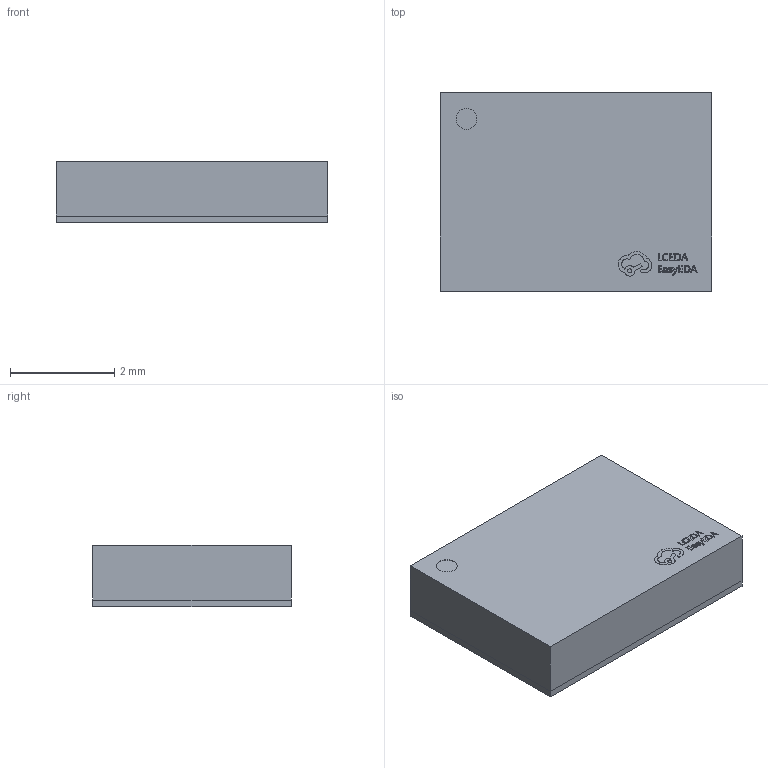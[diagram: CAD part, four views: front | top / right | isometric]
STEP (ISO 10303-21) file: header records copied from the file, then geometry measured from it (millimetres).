
FILE_DESCRIPTION (( 'STEP AP214' ), '1' );
FILE_NAME ('LGA-28_L5.2-W3.8-H1.2-P0.50-BL.step', '2022-07-04T13:29:11', ( '' ), ( '' ), 'SwSTEP 2.0', 'SolidWorks 2020', '' );
FILE_SCHEMA (( 'AUTOMOTIVE_DESIGN' ));
Length unit declared in the file: millimetre
Products named in the file (1): LGA-28_L5.2-W3.8-H1.2-P0.50-BL
Bounding box: 5.2 x 3.8 x 1.18 mm (x, y, z)
Volume: 23.3 mm3; surface area: 100.3 mm2
Topology: 2 solids, 2 shells, 327 faces, 917 edges, 650 vertices
Faces by surface type: plane 213, bspline 112, cylinder 2
Entity records: 14700 total; most frequent: CARTESIAN_POINT 3999, ORIENTED_EDGE 1834, DIRECTION 1125, EDGE_CURVE 917, VECTOR 685, LINE 685, VERTEX_POINT 650, EDGE_LOOP 383
